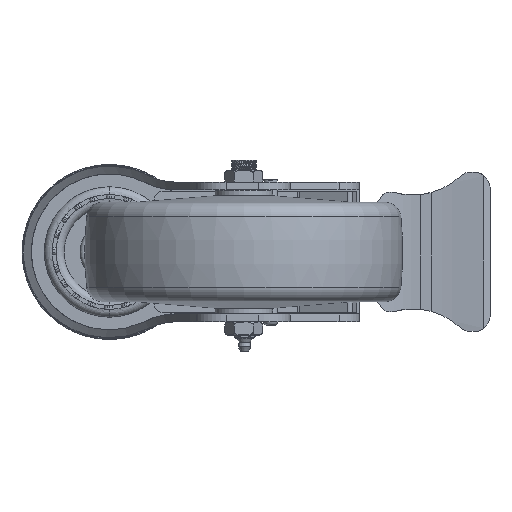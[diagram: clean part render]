
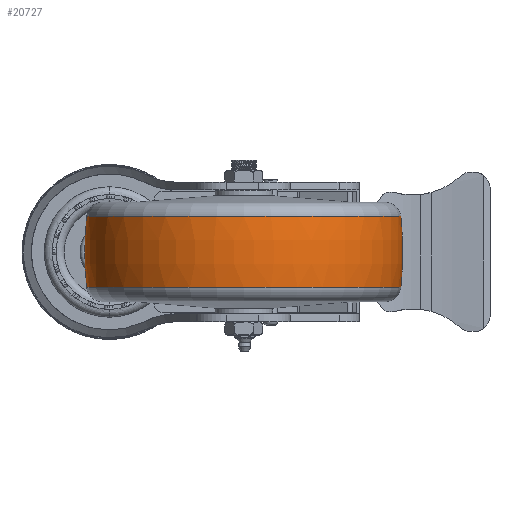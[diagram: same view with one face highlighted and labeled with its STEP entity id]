
A CAD part, front view. The second image highlights one B-rep face of the part: STEP entity #20727.
In plain terms, the highlighted toroidal (fillet/blend) face has major radius 55.569 mm and minor radius 106.369 mm.
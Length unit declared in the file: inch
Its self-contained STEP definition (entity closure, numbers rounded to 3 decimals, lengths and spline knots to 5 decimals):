
#664 = ORIENTED_EDGE ( 'NONE', *, *, #8574, .F. ) ;
#874 = CARTESIAN_POINT ( 'NONE',  ( 3.87776, -4.63, 0. ) ) ;
#1568 = DIRECTION ( 'NONE',  ( 0., 0., -1. ) ) ;
#1907 = AXIS2_PLACEMENT_3D ( 'NONE', #25018, #17946, #27495 ) ;
#3150 = EDGE_LOOP ( 'NONE', ( #664, #29552, #9754, #29265 ) ) ;
#4210 = CIRCLE ( 'NONE', #12461, 1.97615 ) ;
#5161 = CIRCLE ( 'NONE', #1907, 4.18776 ) ;
#6336 = CARTESIAN_POINT ( 'NONE',  ( 1.69, -4.63, 0. ) ) ;
#7587 = CIRCLE ( 'NONE', #18314, 4.18776 ) ;
#8574 = EDGE_CURVE ( 'NONE', #16155, #10975, #7587, .T. ) ;
#9754 = ORIENTED_EDGE ( 'NONE', *, *, #24371, .T. ) ;
#10975 = VERTEX_POINT ( 'NONE', #21451 ) ;
#12461 = AXIS2_PLACEMENT_3D ( 'NONE', #25216, #20195, #27604 ) ;
#16155 = VERTEX_POINT ( 'NONE', #27784 ) ;
#16305 = CIRCLE ( 'NONE', #26451, 1.97615 ) ;
#17946 = DIRECTION ( 'NONE',  ( 0., -1., 0. ) ) ;
#18314 = AXIS2_PLACEMENT_3D ( 'NONE', #874, #27819, #25335 ) ;
#18823 = CARTESIAN_POINT ( 'NONE',  ( 3.66615, -4.63, 0.44632 ) ) ;
#20195 = DIRECTION ( 'NONE',  ( 0., 0., 1. ) ) ;
#20727 = ADVANCED_FACE ( 'NONE', ( #26645 ), #25869, .T. ) ;
#21212 = CARTESIAN_POINT ( 'NONE',  ( 1.69, -4.63, 0.44632 ) ) ;
#21451 = CARTESIAN_POINT ( 'NONE',  ( -0.28615, -4.63, 0.44632 ) ) ;
#23002 = VERTEX_POINT ( 'NONE', #18823 ) ;
#23694 = DIRECTION ( 'NONE',  ( 1., 0., 0. ) ) ;
#23900 = DIRECTION ( 'NONE',  ( -1., 0., 0. ) ) ;
#24371 = EDGE_CURVE ( 'NONE', #24482, #23002, #5161, .T. ) ;
#24482 = VERTEX_POINT ( 'NONE', #25758 ) ;
#25018 = CARTESIAN_POINT ( 'NONE',  ( -0.49776, -4.63, 0. ) ) ;
#25216 = CARTESIAN_POINT ( 'NONE',  ( 1.69, -4.63, -0.44632 ) ) ;
#25335 = DIRECTION ( 'NONE',  ( -1., 0., 0. ) ) ;
#25420 = AXIS2_PLACEMENT_3D ( 'NONE', #6336, #26355, #23694 ) ;
#25758 = CARTESIAN_POINT ( 'NONE',  ( 3.66615, -4.63, -0.44632 ) ) ;
#25869 = TOROIDAL_SURFACE ( 'NONE', #25420, -2.18776, 4.18776 ) ;
#26355 = DIRECTION ( 'NONE',  ( 0., 0., 1. ) ) ;
#26451 = AXIS2_PLACEMENT_3D ( 'NONE', #21212, #1568, #23900 ) ;
#26645 = FACE_OUTER_BOUND ( 'NONE', #3150, .T. ) ;
#27495 = DIRECTION ( 'NONE',  ( 0., 0., -1. ) ) ;
#27604 = DIRECTION ( 'NONE',  ( 1., 0., 0. ) ) ;
#27784 = CARTESIAN_POINT ( 'NONE',  ( -0.28615, -4.63, -0.44632 ) ) ;
#27819 = DIRECTION ( 'NONE',  ( 0., 1., 0. ) ) ;
#28351 = EDGE_CURVE ( 'NONE', #23002, #10975, #16305, .T. ) ;
#29265 = ORIENTED_EDGE ( 'NONE', *, *, #28351, .T. ) ;
#29552 = ORIENTED_EDGE ( 'NONE', *, *, #30016, .T. ) ;
#30016 = EDGE_CURVE ( 'NONE', #16155, #24482, #4210, .T. ) ;
